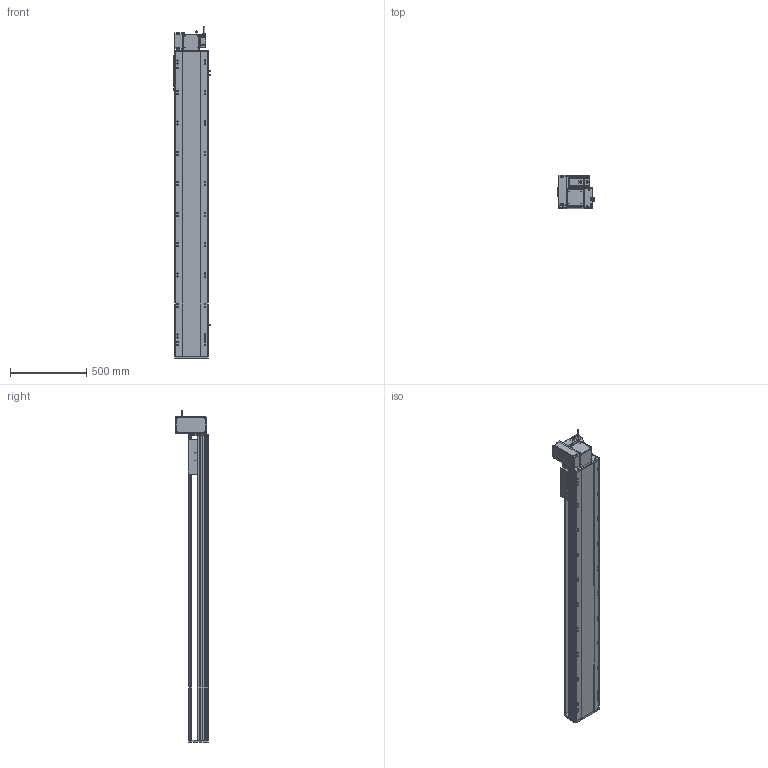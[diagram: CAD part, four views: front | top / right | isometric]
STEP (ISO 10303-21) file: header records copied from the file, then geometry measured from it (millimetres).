
FILE_DESCRIPTION (( 'STEP AP214' ), '1' );
FILE_NAME ('RTB22S-XX-1650-LW-M75-C4.STEP', '2025-12-12T05:58:43', ( '' ), ( '' ), 'SwSTEP 2.0', 'SolidWorks 2018', '' );
FILE_SCHEMA (( 'AUTOMOTIVE_DESIGN' ));
Length unit declared in the file: millimetre
Products named in the file (14): RTB22S-GY-005P^RTB22S-LW-々湍釱蚾饜_RTB22S-XX-XX-LW-M75-C4; RTB22S-XX-1650-LW-M75-C4; RTB22S-GY-017P^RTB22S-LW-々湍釱蚾饜_RTB22S-XX-XX-LW-M75-C4; RTB22S-GY-008-M75--萇儂啣^RTB22S-LW-々湍釱蚾饜_RTB22S-XX-XX-LW-M75-C4; OMRON EE-SX672 传感器^RTB22S-XX-XX-LW-M75-C4; RTB22S-L-004賑釱^RTB22S-XX-XX-LW-M75-C4; RTB22S-L-011菁釱^RTB22S-XX-XX-LW-M75-C4; RTB22S-GY-014--々湍釱^RTB22S-LW-々湍釱蚾饜_RTB22S-XX-XX-LW-M75-C4; RTH22-GY-013外置感应片^RTB22S-XX-XX-LW-M75-C4; RTB22S-GY-007奻裔^RTB22S-XX-XX-LW-M75-C4; 750W萇儂^RTB22S-XX-XX-LW-M75-C4; RTB22S-GY-001耜裔^RTB22S-XX-XX-LW-M75-C4; RTB22S-LW-々湍釱蚾饜^RTB22S-XX-XX-LW-M75-C4; RTB22S-GY-018P^RTB22S-LW-々湍釱蚾饜_RTB22S-XX-XX-LW-M75-C4
Assembly tree (16 placements, depth 3):
  RTB22S-XX-1650-LW-M75-C4
    RTB22S-L-011菁釱^RTB22S-XX-XX-LW-M75-C4
    RTB22S-GY-001耜裔^RTB22S-XX-XX-LW-M75-C4
    750W萇儂^RTB22S-XX-XX-LW-M75-C4
    RTB22S-GY-007奻裔^RTB22S-XX-XX-LW-M75-C4
    RTB22S-L-004賑釱^RTB22S-XX-XX-LW-M75-C4
    RTH22-GY-013外置感应片^RTB22S-XX-XX-LW-M75-C4
    OMRON EE-SX672 传感器^RTB22S-XX-XX-LW-M75-C4  x3
    RTB22S-LW-々湍釱蚾饜^RTB22S-XX-XX-LW-M75-C4
      RTB22S-GY-014--々湍釱^RTB22S-LW-々湍釱蚾饜_RTB22S-XX-XX-LW-M75-C4
      RTB22S-GY-017P^RTB22S-LW-々湍釱蚾饜_RTB22S-XX-XX-LW-M75-C4  x2
      RTB22S-GY-005P^RTB22S-LW-々湍釱蚾饜_RTB22S-XX-XX-LW-M75-C4
      RTB22S-GY-008-M75--萇儂啣^RTB22S-LW-々湍釱蚾饜_RTB22S-XX-XX-LW-M75-C4
      RTB22S-GY-018P^RTB22S-LW-々湍釱蚾饜_RTB22S-XX-XX-LW-M75-C4
Bounding box: 238.5 x 215.5 x 2182.2 mm (x, y, z)
Volume: 28857731.8 mm3; surface area: 2974788.9 mm2
Topology: 15 solids, 15 shells, 2037 faces, 5536 edges, 3542 vertices
Faces by surface type: plane 921, cylinder 658, bspline 296, cone 150, sphere 8, torus 4
Entity records: 54742 total; most frequent: CARTESIAN_POINT 15616, ORIENTED_EDGE 7836, DIRECTION 7592, EDGE_CURVE 3918, AXIS2_PLACEMENT_3D 2698, VERTEX_POINT 2546, VECTOR 2196, LINE 2196
